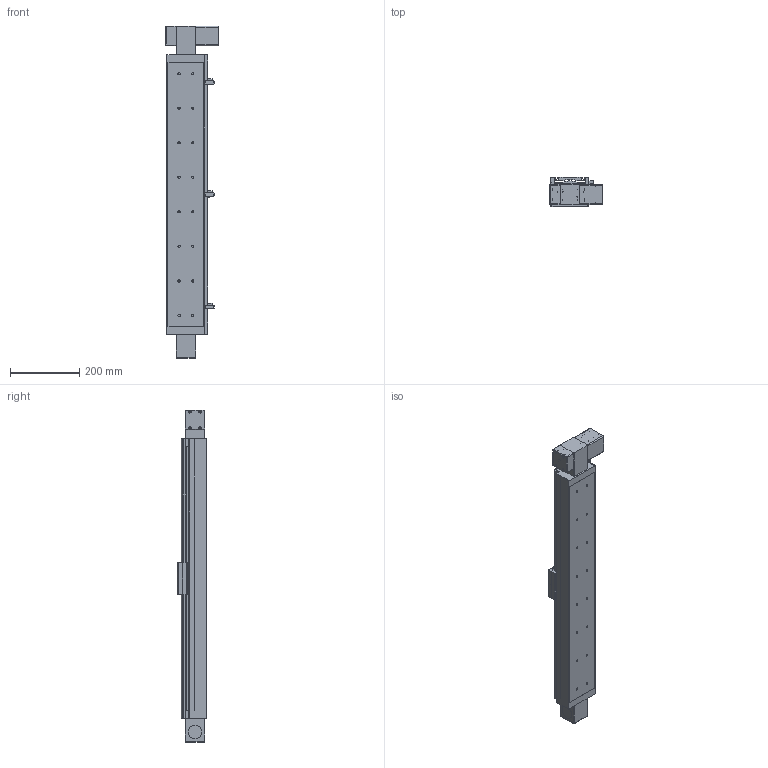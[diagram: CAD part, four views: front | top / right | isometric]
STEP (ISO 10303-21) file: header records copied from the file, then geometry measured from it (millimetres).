
FILE_DESCRIPTION((''),'2;1');
FILE_NAME('E:\uia actuator\UIA actuator 3d- 2015\Belt drive actuator\UIA110BR12(15)DC\UIA110BR12(15)DC-STEP FILE\UIA110BR12(15) stp file 13May16\UIA110BR12(15)DC-650-M23-P13-C10-S.stp','2016-05-13T15:50:55',('h029'),(''),'Autodesk Inventor 11','Autodesk Inventor 11','');
FILE_SCHEMA(('AUTOMOTIVE_DESIGN { 1 0 10303 214 1 1 1 1 }'));
Length unit declared in the file: millimetre
Products named in the file (11): UIA110BR12(15)DC-650; UIA110BR12(15)DC-650-body; UIA110BR12(15)DC-650-Sensor rail; UIA110B-Carriage; UIA110B- Sensor Flag; UIA110B-Cover; SOH-32C; SOH-32C-3; SOH-32C-1; SOH-32C-2; Motor mount
Assembly tree (10 placements, depth 3):
  UIA110BR12(15)DC-650
    UIA110BR12(15)DC-650-body
    UIA110BR12(15)DC-650-Sensor rail
    UIA110B-Carriage
    UIA110B- Sensor Flag
    UIA110B-Cover
    SOH-32C
      SOH-32C-3
      SOH-32C-1
      SOH-32C-2
    Motor mount
Bounding box: 152 x 84.2 x 961 mm (x, y, z)
Volume: 3089621.8 mm3; surface area: 850937.9 mm2
Topology: 9 solids, 13 shells, 740 faces, 2074 edges, 1332 vertices
Faces by surface type: plane 463, cylinder 187, cone 42, bspline 40, sphere 8
Full cylindrical faces by diameter (mm): 2.459 x4, 3 x2, 3.242 x8, 3.5 x4, 4 x10, 4.5 x4, 4.917 x8, 5 x2, 6.35 x1, 6.5 x16, 7.5 x4, 10 x3, 11 x16, 12 x1, 20 x2, 32 x3, 37 x1, 38.1 x1, 39 x2, 43.5 x1, 46 x2
Entity records: 24538 total; most frequent: CARTESIAN_POINT 6081, DIRECTION 3771, ORIENTED_EDGE 3606, EDGE_CURVE 1803, AXIS2_PLACEMENT_3D 1288, VERTEX_POINT 1240, VECTOR 1195, LINE 1195
